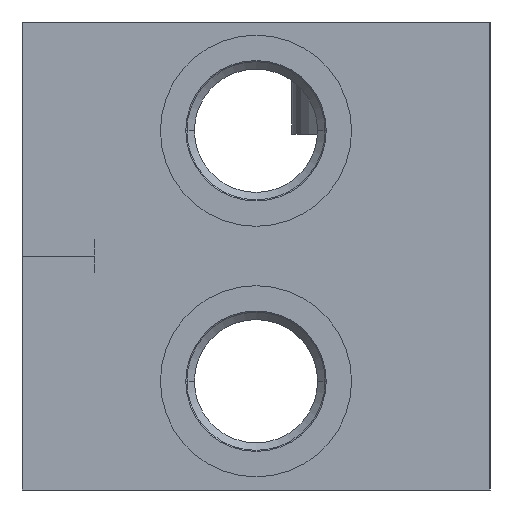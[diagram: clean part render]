
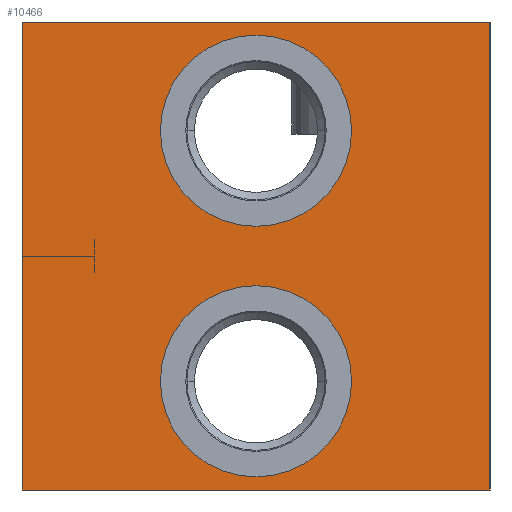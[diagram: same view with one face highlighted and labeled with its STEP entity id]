
A CAD part, left-side view. The second image highlights one B-rep face of the part: STEP entity #10466.
In plain terms, the highlighted planar face has unit normal (-1, 0, 0).
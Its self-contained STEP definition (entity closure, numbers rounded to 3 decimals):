
#30=DIRECTION('',(0.,-1.,0.));
#31=VECTOR('',#30,71.);
#32=CARTESIAN_POINT('',(0.,71.,0.));
#33=LINE('',#32,#31);
#339=DIRECTION('',(0.,0.,-1.));
#340=VECTOR('',#339,71.);
#341=CARTESIAN_POINT('',(0.,0.,0.));
#342=LINE('',#341,#340);
#2314=DIRECTION('',(0.,0.,-1.));
#2315=VECTOR('',#2314,71.);
#2316=CARTESIAN_POINT('',(0.,71.,0.));
#2317=LINE('',#2316,#2315);
#2321=CARTESIAN_POINT('',(0.,35.5,-54.5));
#2322=DIRECTION('',(1.,0.,0.));
#2323=DIRECTION('',(0.,-1.,0.));
#2324=AXIS2_PLACEMENT_3D('',#2321,#2322,#2323);
#2329=CARTESIAN_POINT('',(0.,35.5,-54.5));
#2330=DIRECTION('',(1.,0.,0.));
#2331=DIRECTION('',(0.,1.,0.));
#2332=AXIS2_PLACEMENT_3D('',#2329,#2330,#2331);
#2337=CARTESIAN_POINT('',(0.,35.5,-16.5));
#2338=DIRECTION('',(1.,0.,0.));
#2339=DIRECTION('',(0.,-1.,0.));
#2340=AXIS2_PLACEMENT_3D('',#2337,#2338,#2339);
#2345=CARTESIAN_POINT('',(0.,35.5,-16.5));
#2346=DIRECTION('',(1.,0.,0.));
#2347=DIRECTION('',(0.,1.,0.));
#2348=AXIS2_PLACEMENT_3D('',#2345,#2346,#2347);
#2374=DIRECTION('',(0.,-1.,0.));
#2375=VECTOR('',#2374,71.);
#2376=CARTESIAN_POINT('',(0.,71.,-71.));
#2377=LINE('',#2376,#2375);
#8837=CARTESIAN_POINT('',(0.,0.,0.));
#8839=VERTEX_POINT('',#8837);
#8843=CARTESIAN_POINT('',(0.,71.,0.));
#8844=VERTEX_POINT('',#8843);
#8845=CARTESIAN_POINT('',(0.,0.,-71.));
#8847=VERTEX_POINT('',#8845);
#8851=CARTESIAN_POINT('',(0.,71.,-71.));
#8852=VERTEX_POINT('',#8851);
#8881=CARTESIAN_POINT('',(0.,21.,-54.5));
#8882=CARTESIAN_POINT('',(0.,50.,-54.5));
#8883=VERTEX_POINT('',#8881);
#8884=VERTEX_POINT('',#8882);
#8897=CARTESIAN_POINT('',(0.,21.,-16.5));
#8898=CARTESIAN_POINT('',(0.,50.,-16.5));
#8899=VERTEX_POINT('',#8897);
#8900=VERTEX_POINT('',#8898);
#10442=CARTESIAN_POINT('',(0.,71.,0.));
#10443=DIRECTION('',(-1.,0.,0.));
#10444=DIRECTION('',(0.,-1.,0.));
#10445=AXIS2_PLACEMENT_3D('',#10442,#10443,#10444);
#10446=PLANE('',#10445);
#10447=ORIENTED_EDGE('',*,*,#9852,.T.);
#10448=ORIENTED_EDGE('',*,*,#9986,.T.);
#10450=ORIENTED_EDGE('',*,*,#10449,.F.);
#10451=ORIENTED_EDGE('',*,*,#10073,.F.);
#10452=EDGE_LOOP('',(#10447,#10448,#10450,#10451));
#10453=FACE_OUTER_BOUND('',#10452,.F.);
#10455=ORIENTED_EDGE('',*,*,#10454,.F.);
#10457=ORIENTED_EDGE('',*,*,#10456,.F.);
#10458=EDGE_LOOP('',(#10455,#10457));
#10459=FACE_BOUND('',#10458,.F.);
#10461=ORIENTED_EDGE('',*,*,#10460,.F.);
#10463=ORIENTED_EDGE('',*,*,#10462,.F.);
#10464=EDGE_LOOP('',(#10461,#10463));
#10465=FACE_BOUND('',#10464,.F.);
#2325=CIRCLE('',#2324,14.5);
#2333=CIRCLE('',#2332,14.5);
#2341=CIRCLE('',#2340,14.5);
#2349=CIRCLE('',#2348,14.5);
#9852=EDGE_CURVE('',#8844,#8839,#33,.T.);
#9986=EDGE_CURVE('',#8839,#8847,#342,.T.);
#10073=EDGE_CURVE('',#8844,#8852,#2317,.T.);
#10449=EDGE_CURVE('',#8852,#8847,#2377,.T.);
#10454=EDGE_CURVE('',#8883,#8884,#2325,.T.);
#10456=EDGE_CURVE('',#8884,#8883,#2333,.T.);
#10460=EDGE_CURVE('',#8899,#8900,#2341,.T.);
#10462=EDGE_CURVE('',#8900,#8899,#2349,.T.);
#10466=ADVANCED_FACE('',(#10453,#10459,#10465),#10446,.T.);
